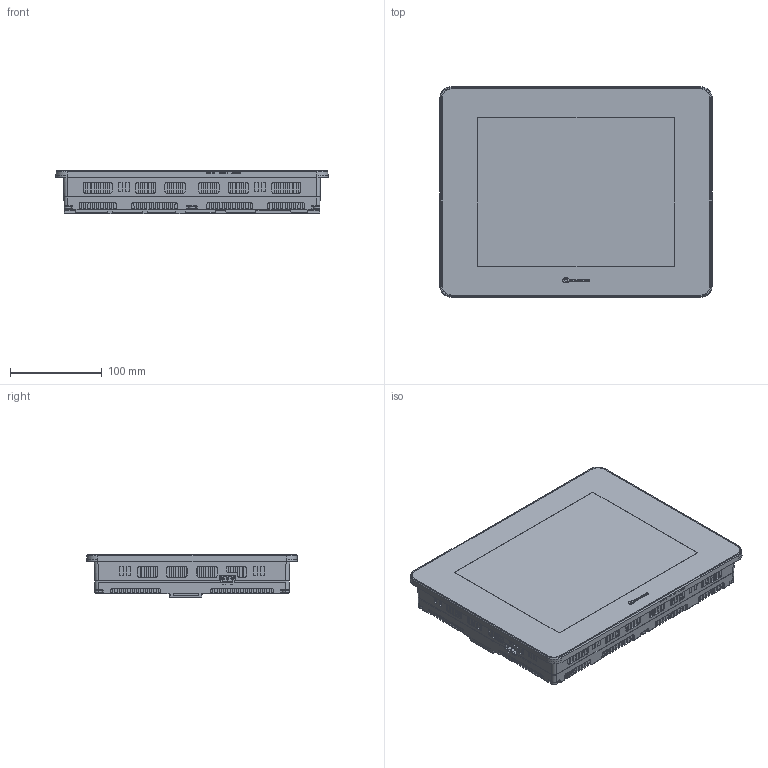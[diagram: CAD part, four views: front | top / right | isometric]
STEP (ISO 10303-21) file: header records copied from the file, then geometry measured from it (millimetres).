
FILE_DESCRIPTION (( 'STEP AP203' ), '1' );
FILE_NAME ('UniStream Panel 10.4inch.STEP', '2014-01-30T07:56:12', ( 'dell' ), ( '' ), 'SwSTEP 2.0', 'SolidWorks 2011', '' );
FILE_SCHEMA (( 'CONFIG_CONTROL_DESIGN' ));
Length unit declared in the file: millimetre
Products named in the file (1): UniStream Panel 10.4inch
Bounding box: 295.89 x 228.79 x 46.85 mm (x, y, z)
Volume: 2565425.7 mm3; surface area: 216478.6 mm2
Topology: 1 solids, 8 shells, 3938 faces, 11056 edges, 7260 vertices
Faces by surface type: plane 2720, cylinder 578, cone 416, bspline 192, sphere 18, torus 14
Entity records: 134412 total; most frequent: CARTESIAN_POINT 37283, ORIENTED_EDGE 22112, DIRECTION 17276, EDGE_CURVE 11056, LINE 7704, VECTOR 7704, VERTEX_POINT 7260, AXIS2_PLACEMENT_3D 4786
